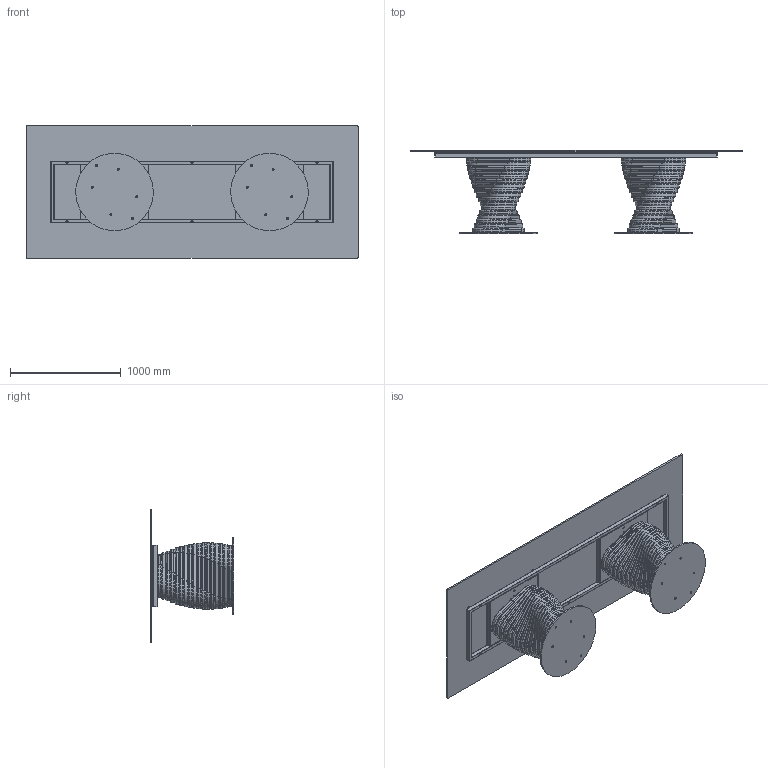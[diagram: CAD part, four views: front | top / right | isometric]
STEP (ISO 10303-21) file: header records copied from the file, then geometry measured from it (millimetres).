
FILE_DESCRIPTION (( 'STEP AP203' ), '1' );
FILE_NAME ('RO24G.STEP', '2024-08-07T13:18:08', ( '' ), ( '' ), 'SwSTEP 2.0', 'SolidWorks 2022', '' );
FILE_SCHEMA (( 'CONFIG_CONTROL_DESIGN' ));
Length unit declared in the file: millimetre
Products named in the file (15): RO24G; TTAV03-06-TELAIO UNIVERSALE X TAVOLI 300-340cm; 434070-00-PIEDINO TPV GOMMA NERO D. 30x8max18_filo estetico; ROBX00000SUP-00-Anello rotolo SUPERIORE_Default<A macchina>; M8xXXmm_hex_M8X20mm; TTAV03_02-06-VASSOIO IRRIGIDIMENTO TELAIO UNIVERSALE RETTANGOLARE; ROBX00000INF-00-Anello rotolo INFERIORE_Default<A macchina>; C2XCRXX-00-Piani Rettangolari Cristallo_24 3000x1200; ROBX00000-00-ROTOLO BASE 17 ANELLI; rondella M8_8X24; M8xXXmm_M8x20mm; COLLO TELAIO UNIVERSALE TTAV03 CON FERRAMENTA_MTG TOP CRISTALLO VERNICIATO-CERAMICA; ROBX00000MED-00-Anello rotolo MEDIO_Default<A macchina>; ROB200000-00-PIASTRA BASE_Ø70cm; TTAV03_01-06-RING TUBO TELAIO UNIVERSALE X TAVOLI 300-340cm
Assembly tree (63 placements, depth 4):
  RO24G
    ROB200000-00-PIASTRA BASE_Ø70cm  x2
    COLLO TELAIO UNIVERSALE TTAV03 CON FERRAMENTA_MTG TOP CRISTALLO VERNICIATO-CERAMICA
      TTAV03-06-TELAIO UNIVERSALE X TAVOLI 300-340cm
        TTAV03_01-06-RING TUBO TELAIO UNIVERSALE X TAVOLI 300-340cm
        TTAV03_02-06-VASSOIO IRRIGIDIMENTO TELAIO UNIVERSALE RETTANGOLARE  x2
      434070-00-PIEDINO TPV GOMMA NERO D. 30x8max18_filo estetico  x8
    ROBX00000-00-ROTOLO BASE 17 ANELLI  x2
      ROBX00000INF-00-Anello rotolo INFERIORE_Default<A macchina>
      ROBX00000MED-00-Anello rotolo MEDIO_Default<A macchina>
      ROBX00000SUP-00-Anello rotolo SUPERIORE_Default<A macchina>
    M8xXXmm_hex_M8X20mm  x12
    rondella M8_8X24  x8
    M8xXXmm_M8x20mm  x8
    C2XCRXX-00-Piani Rettangolari Cristallo_24 3000x1200
Bounding box: 3000 x 757 x 1200 mm (x, y, z)
Volume: 77685802.1 mm3; surface area: 21882792 mm2
Topology: 186 solids, 186 shells, 2830 faces, 6652 edges, 4148 vertices
Faces by surface type: plane 1170, cylinder 996, torus 424, cone 232, sphere 8
Entity records: 21134 total; most frequent: CARTESIAN_POINT 4678, DIRECTION 2981, ORIENTED_EDGE 2696, EDGE_CURVE 1348, AXIS2_PLACEMENT_3D 1122, VERTEX_POINT 843, VECTOR 737, LINE 737
